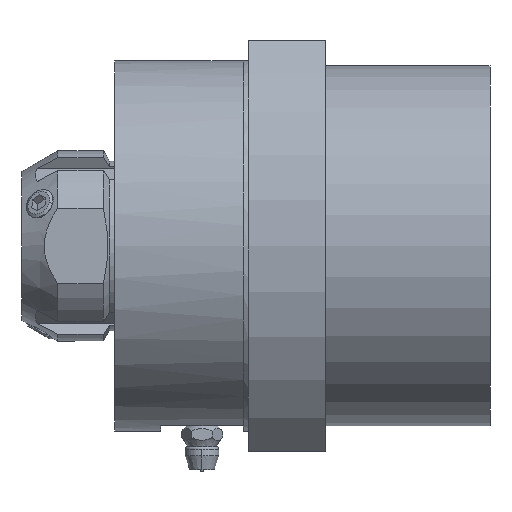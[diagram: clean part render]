
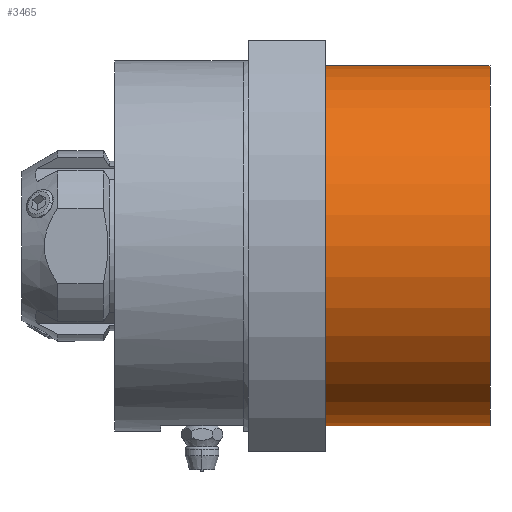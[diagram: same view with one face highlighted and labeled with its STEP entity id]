
A CAD part, front view. The second image highlights one B-rep face of the part: STEP entity #3465.
In plain terms, the highlighted cylindrical face has radius 35 mm (diameter 70 mm), a partial arc.
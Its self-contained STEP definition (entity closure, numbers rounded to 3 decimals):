
#213 = EDGE_CURVE ( 'NONE', #18768, #12714, #15557, .T. ) ;
#230 = VECTOR ( 'NONE', #12155, 1000. ) ;
#451 = VECTOR ( 'NONE', #13612, 1000. ) ;
#766 = EDGE_LOOP ( 'NONE', ( #13645, #1275, #861, #22320 ) ) ;
#861 = ORIENTED_EDGE ( 'NONE', *, *, #213, .T. ) ;
#982 = EDGE_CURVE ( 'NONE', #12714, #9254, #8289, .T. ) ;
#1124 = CARTESIAN_POINT ( 'NONE',  ( 0., 0., 0. ) ) ;
#1275 = ORIENTED_EDGE ( 'NONE', *, *, #13997, .T. ) ;
#1712 = CARTESIAN_POINT ( 'NONE',  ( 0., 0., -35. ) ) ;
#2930 = DIRECTION ( 'NONE',  ( -1., 0., 0. ) ) ;
#3465 = ADVANCED_FACE ( 'NONE', ( #13477 ), #10712, .T. ) ;
#5125 = CARTESIAN_POINT ( 'NONE',  ( -32., 0., 0. ) ) ;
#5855 = VERTEX_POINT ( 'NONE', #1712 ) ;
#6530 = DIRECTION ( 'NONE',  ( 0., 0., 1. ) ) ;
#6768 = AXIS2_PLACEMENT_3D ( 'NONE', #5125, #17449, #17290 ) ;
#7450 = EDGE_CURVE ( 'NONE', #5855, #9254, #19132, .T. ) ;
#8289 = CIRCLE ( 'NONE', #6768, 35. ) ;
#9254 = VERTEX_POINT ( 'NONE', #11626 ) ;
#10493 = CIRCLE ( 'NONE', #15471, 35. ) ;
#10712 = CYLINDRICAL_SURFACE ( 'NONE', #21497, 35. ) ;
#11626 = CARTESIAN_POINT ( 'NONE',  ( -32., 0., -35. ) ) ;
#12155 = DIRECTION ( 'NONE',  ( -1., 0., 0. ) ) ;
#12714 = VERTEX_POINT ( 'NONE', #15798 ) ;
#13349 = DIRECTION ( 'NONE',  ( 0., 0., 1. ) ) ;
#13477 = FACE_OUTER_BOUND ( 'NONE', #766, .T. ) ;
#13612 = DIRECTION ( 'NONE',  ( -1., 0., 0. ) ) ;
#13645 = ORIENTED_EDGE ( 'NONE', *, *, #7450, .F. ) ;
#13997 = EDGE_CURVE ( 'NONE', #5855, #18768, #10493, .T. ) ;
#15471 = AXIS2_PLACEMENT_3D ( 'NONE', #1124, #2930, #6530 ) ;
#15557 = LINE ( 'NONE', #17085, #230 ) ;
#15792 = CARTESIAN_POINT ( 'NONE',  ( -51., 0., 0. ) ) ;
#15798 = CARTESIAN_POINT ( 'NONE',  ( -32., 0., 35. ) ) ;
#15865 = DIRECTION ( 'NONE',  ( -1., 0., 0. ) ) ;
#17085 = CARTESIAN_POINT ( 'NONE',  ( -51., 0., 35. ) ) ;
#17290 = DIRECTION ( 'NONE',  ( 0., 0., 1. ) ) ;
#17449 = DIRECTION ( 'NONE',  ( 1., 0., 0. ) ) ;
#18768 = VERTEX_POINT ( 'NONE', #22151 ) ;
#19132 = LINE ( 'NONE', #22527, #451 ) ;
#21497 = AXIS2_PLACEMENT_3D ( 'NONE', #15792, #15865, #13349 ) ;
#22151 = CARTESIAN_POINT ( 'NONE',  ( 0., 0., 35. ) ) ;
#22320 = ORIENTED_EDGE ( 'NONE', *, *, #982, .T. ) ;
#22527 = CARTESIAN_POINT ( 'NONE',  ( -51., 0., -35. ) ) ;
